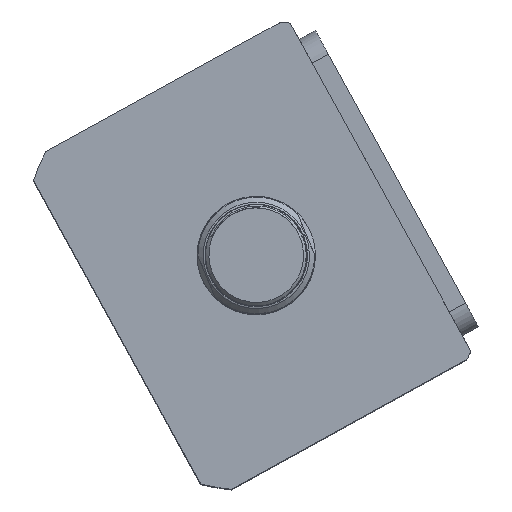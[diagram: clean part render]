
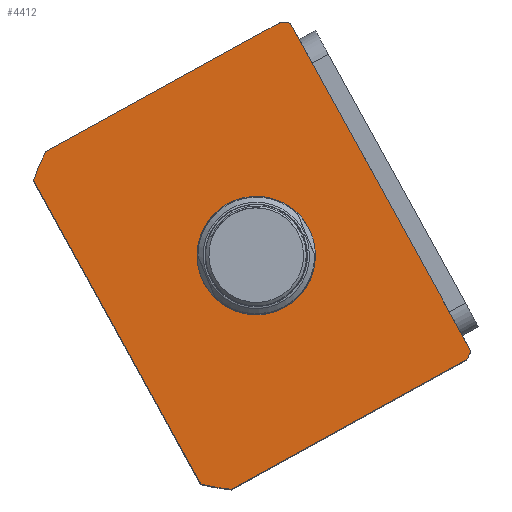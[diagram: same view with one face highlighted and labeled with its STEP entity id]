
A CAD part, top view. The second image highlights one B-rep face of the part: STEP entity #4412.
In plain terms, the highlighted planar face has unit normal (0, 0, 1) as drawn and (0, 0, -1) by its records, which use the part's own axes.
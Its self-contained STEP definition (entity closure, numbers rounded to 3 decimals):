
#506 = DIRECTION ( 'NONE',  ( 1., 0., 0. ) ) ;
#696 = CARTESIAN_POINT ( 'NONE',  ( 57., -99.262, 0. ) ) ;
#1082 = DIRECTION ( 'NONE',  ( 1., 0., 0. ) ) ;
#1319 = CARTESIAN_POINT ( 'NONE',  ( -51.198, -106.497, 0. ) ) ;
#1382 = CARTESIAN_POINT ( 'NONE',  ( 0., -59.497, 0. ) ) ;
#2364 = CARTESIAN_POINT ( 'NONE',  ( -57., -19.732, 0. ) ) ;
#2752 = VECTOR ( 'NONE', #22690, 1000. ) ;
#2897 = DIRECTION ( 'NONE',  ( 0., 0., 1. ) ) ;
#3134 = VERTEX_POINT ( 'NONE', #14600 ) ;
#3254 = ORIENTED_EDGE ( 'NONE', *, *, #24097, .F. ) ;
#3431 = AXIS2_PLACEMENT_3D ( 'NONE', #5259, #20340, #7414 ) ;
#3452 = ORIENTED_EDGE ( 'NONE', *, *, #22182, .F. ) ;
#3540 = DIRECTION ( 'NONE',  ( 1., 0., 0. ) ) ;
#3592 = CARTESIAN_POINT ( 'NONE',  ( 0., 0., 0. ) ) ;
#4294 = CARTESIAN_POINT ( 'NONE',  ( 51.198, -106.497, 0. ) ) ;
#4412 = ADVANCED_FACE ( 'NONE', ( #27590, #21859 ), #18781, .F. ) ;
#4719 = EDGE_LOOP ( 'NONE', ( #17958, #21374 ) ) ;
#5126 = ORIENTED_EDGE ( 'NONE', *, *, #19025, .F. ) ;
#5259 = CARTESIAN_POINT ( 'NONE',  ( 0., -59.497, 0. ) ) ;
#5797 = AXIS2_PLACEMENT_3D ( 'NONE', #1382, #16456, #3540 ) ;
#5935 = CIRCLE ( 'NONE', #3431, 17.5 ) ;
#6022 = AXIS2_PLACEMENT_3D ( 'NONE', #3592, #8018, #23096 ) ;
#6137 = EDGE_CURVE ( 'NONE', #13171, #24260, #12698, .T. ) ;
#6729 = CARTESIAN_POINT ( 'NONE',  ( -57., -99.262, 0. ) ) ;
#7204 = DIRECTION ( 'NONE',  ( 0., 0., 1. ) ) ;
#7414 = DIRECTION ( 'NONE',  ( 1., 0., 0. ) ) ;
#7542 = ORIENTED_EDGE ( 'NONE', *, *, #6137, .F. ) ;
#8018 = DIRECTION ( 'NONE',  ( 0., 0., 1. ) ) ;
#8067 = VERTEX_POINT ( 'NONE', #14343 ) ;
#8143 = CARTESIAN_POINT ( 'NONE',  ( 0., -59.497, 0. ) ) ;
#8463 = LINE ( 'NONE', #26940, #2752 ) ;
#8769 = DIRECTION ( 'NONE',  ( 0., -1., 0. ) ) ;
#9927 = CIRCLE ( 'NONE', #18983, 69.5 ) ;
#10282 = VERTEX_POINT ( 'NONE', #13474 ) ;
#10317 = DIRECTION ( 'NONE',  ( 1., 0., 0. ) ) ;
#10499 = EDGE_CURVE ( 'NONE', #8067, #23057, #5935, .T. ) ;
#10518 = AXIS2_PLACEMENT_3D ( 'NONE', #20125, #7204, #22269 ) ;
#11097 = CARTESIAN_POINT ( 'NONE',  ( 57., -19.732, 0. ) ) ;
#11241 = CIRCLE ( 'NONE', #5797, 69.5 ) ;
#12698 = CIRCLE ( 'NONE', #19235, 69.5 ) ;
#12822 = AXIS2_PLACEMENT_3D ( 'NONE', #8143, #23227, #10317 ) ;
#12927 = EDGE_CURVE ( 'NONE', #23057, #8067, #27061, .T. ) ;
#13171 = VERTEX_POINT ( 'NONE', #6729 ) ;
#13294 = VERTEX_POINT ( 'NONE', #696 ) ;
#13392 = DIRECTION ( 'NONE',  ( 0., 0., 1. ) ) ;
#13474 = CARTESIAN_POINT ( 'NONE',  ( -55.374, -17.497, 0. ) ) ;
#14003 = LINE ( 'NONE', #24718, #24784 ) ;
#14343 = CARTESIAN_POINT ( 'NONE',  ( 17.5, -59.497, 0. ) ) ;
#14513 = CIRCLE ( 'NONE', #10518, 69.5 ) ;
#14536 = LINE ( 'NONE', #24767, #24643 ) ;
#14600 = CARTESIAN_POINT ( 'NONE',  ( 55.374, -17.497, 0. ) ) ;
#14802 = VERTEX_POINT ( 'NONE', #11097 ) ;
#15246 = LINE ( 'NONE', #21682, #20984 ) ;
#15807 = CARTESIAN_POINT ( 'NONE',  ( 0., -59.497, 0. ) ) ;
#16148 = CARTESIAN_POINT ( 'NONE',  ( -17.5, -59.497, 0. ) ) ;
#16456 = DIRECTION ( 'NONE',  ( 0., 0., 1. ) ) ;
#16629 = EDGE_CURVE ( 'NONE', #10282, #18311, #14513, .T. ) ;
#17958 = ORIENTED_EDGE ( 'NONE', *, *, #10499, .T. ) ;
#17982 = DIRECTION ( 'NONE',  ( 1., 0., 0. ) ) ;
#18311 = VERTEX_POINT ( 'NONE', #2364 ) ;
#18491 = ORIENTED_EDGE ( 'NONE', *, *, #21003, .F. ) ;
#18781 = PLANE ( 'NONE',  #6022 ) ;
#18983 = AXIS2_PLACEMENT_3D ( 'NONE', #26305, #13392, #506 ) ;
#19025 = EDGE_CURVE ( 'NONE', #24260, #26250, #14003, .T. ) ;
#19176 = EDGE_LOOP ( 'NONE', ( #18491, #3254, #3452, #5126, #7542, #27265, #22776, #20894 ) ) ;
#19235 = AXIS2_PLACEMENT_3D ( 'NONE', #15807, #2897, #17982 ) ;
#20125 = CARTESIAN_POINT ( 'NONE',  ( 0., -59.497, 0. ) ) ;
#20340 = DIRECTION ( 'NONE',  ( 0., 0., 1. ) ) ;
#20894 = ORIENTED_EDGE ( 'NONE', *, *, #25031, .F. ) ;
#20984 = VECTOR ( 'NONE', #8769, 1000. ) ;
#21003 = EDGE_CURVE ( 'NONE', #14802, #3134, #9927, .T. ) ;
#21374 = ORIENTED_EDGE ( 'NONE', *, *, #12927, .T. ) ;
#21682 = CARTESIAN_POINT ( 'NONE',  ( -57., -17.497, 0. ) ) ;
#21859 = FACE_OUTER_BOUND ( 'NONE', #19176, .T. ) ;
#22182 = EDGE_CURVE ( 'NONE', #26250, #13294, #11241, .T. ) ;
#22269 = DIRECTION ( 'NONE',  ( 1., 0., 0. ) ) ;
#22690 = DIRECTION ( 'NONE',  ( 0., 1., 0. ) ) ;
#22776 = ORIENTED_EDGE ( 'NONE', *, *, #16629, .F. ) ;
#23057 = VERTEX_POINT ( 'NONE', #16148 ) ;
#23096 = DIRECTION ( 'NONE',  ( 1., 0., 0. ) ) ;
#23227 = DIRECTION ( 'NONE',  ( 0., 0., 1. ) ) ;
#23633 = EDGE_CURVE ( 'NONE', #18311, #13171, #15246, .T. ) ;
#24097 = EDGE_CURVE ( 'NONE', #13294, #14802, #8463, .T. ) ;
#24260 = VERTEX_POINT ( 'NONE', #1319 ) ;
#24643 = VECTOR ( 'NONE', #26944, 1000. ) ;
#24718 = CARTESIAN_POINT ( 'NONE',  ( -57., -106.497, 0. ) ) ;
#24767 = CARTESIAN_POINT ( 'NONE',  ( -57., -17.497, 0. ) ) ;
#24784 = VECTOR ( 'NONE', #1082, 1000. ) ;
#25031 = EDGE_CURVE ( 'NONE', #3134, #10282, #14536, .T. ) ;
#26250 = VERTEX_POINT ( 'NONE', #4294 ) ;
#26305 = CARTESIAN_POINT ( 'NONE',  ( 0., -59.497, 0. ) ) ;
#26940 = CARTESIAN_POINT ( 'NONE',  ( 57., -17.497, 0. ) ) ;
#26944 = DIRECTION ( 'NONE',  ( -1., 0., 0. ) ) ;
#27061 = CIRCLE ( 'NONE', #12822, 17.5 ) ;
#27265 = ORIENTED_EDGE ( 'NONE', *, *, #23633, .F. ) ;
#27590 = FACE_BOUND ( 'NONE', #4719, .T. ) ;
